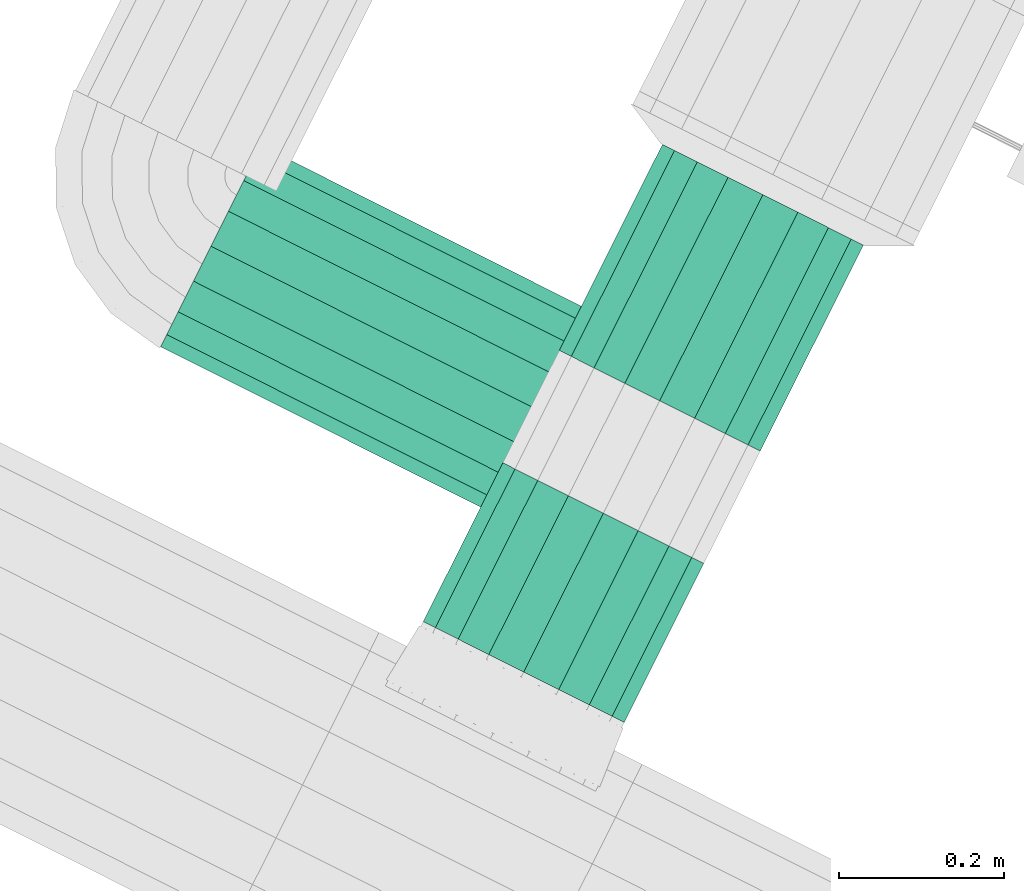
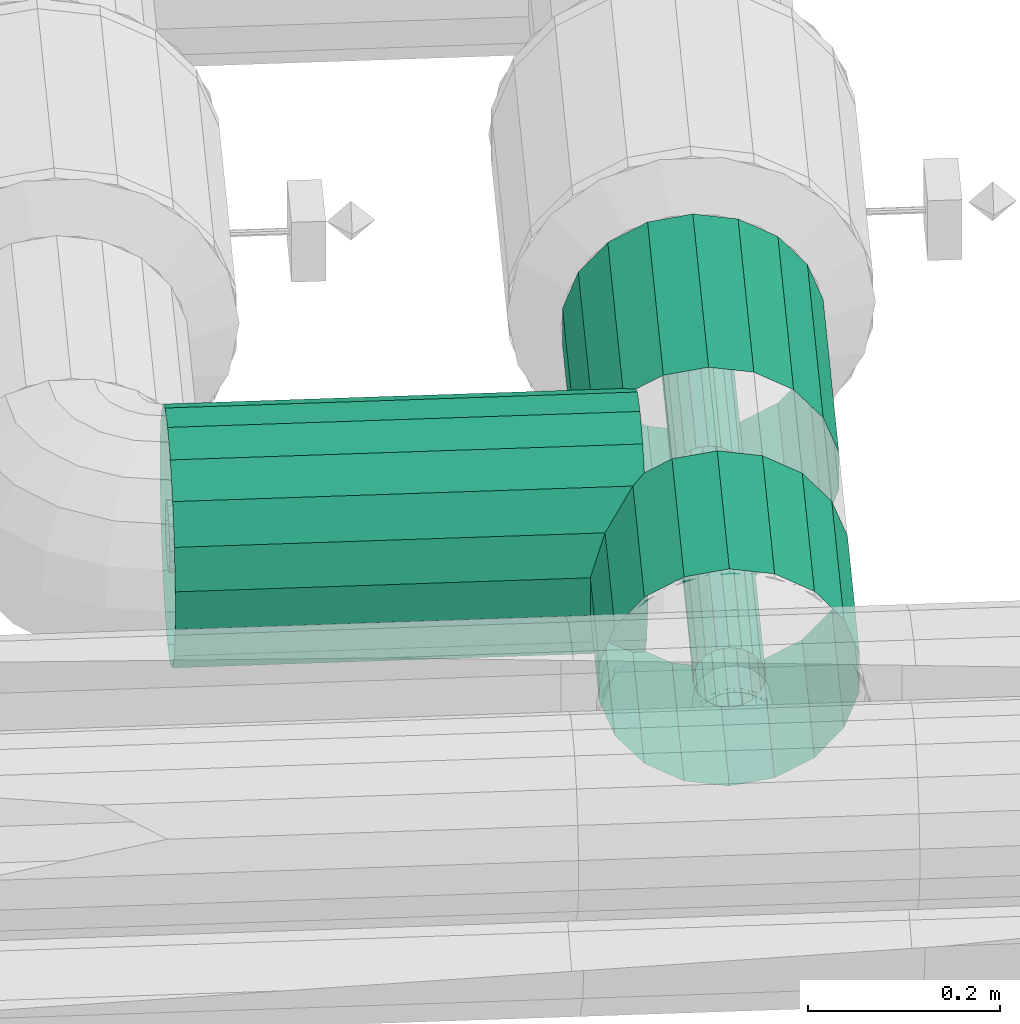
# One storey, part 38 of 152: 3 flow segments.
"""IFC2X3 building model written with IfcOpenShell, lengths in metres."""

from ifc_helpers import new_model, si_unit, derived_unit, direction, frame, origin, place, context, subcontext, project, spatial, face_set, surface_model, source, transform, mapped, material, type_object, type_shapes, element, save


model = new_model("IFC2X3")

# Units and contexts
model_context = context("Model", 3, precision=5.2338327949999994e-05, world=origin(), true_north=direction((0.0, 1.0)))
body_context = subcontext(model_context, "Body", "Model", "MODEL_VIEW")
ifc_project = project(units=[si_unit("LENGTHUNIT", "METRE"), si_unit("AREAUNIT", "SQUARE_METRE"), si_unit("VOLUMEUNIT", "CUBIC_METRE"), si_unit("MASSUNIT", "GRAM", prefix="KILO"), si_unit("PLANEANGLEUNIT", "RADIAN"), derived_unit("THERMALTRANSMITTANCEUNIT", [(si_unit("MASSUNIT", "GRAM", prefix="KILO"), 1), (si_unit("THERMODYNAMICTEMPERATUREUNIT", "KELVIN"), -1), (si_unit("TIMEUNIT", "SECOND"), -3)])], contexts=[model_context])

# Site, building, storey
site_placement = place(None, frame((0.0, 0.0, 0.0), z_axis=(0.0, 0.0, 1.0), x_axis=(0.8939966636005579, -0.4480736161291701, 0.0)))
site = spatial("IfcSite", under=ifc_project, at=site_placement, Name="Default", CompositionType="ELEMENT")
building_placement = place(site_placement, origin())
building = spatial("IfcBuilding", under=site, at=building_placement, CompositionType="ELEMENT")
storey_placement = place(building_placement, frame((0.0, 0.0, 2.7499999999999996)))
storey = spatial("IfcBuildingStorey", under=building, at=storey_placement, Name="1. Obergeschoss", CompositionType="ELEMENT", Elevation=2.7499999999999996)

# Flow segments
ifc_material = material(Name="IfcSurfaceStyle #1741")
distribution_element_type_1 = type_object("IfcDistributionElementType", Name="Stahlrohr nach DIN 2448 259989:Stahlrohr nach DIN 2448 259989", material=ifc_material)
shared_shape_1 = source(origin(), body_context, "Body", "SurfaceModel", [
    surface_model("IfcFaceBasedSurfaceModel", [(15.057242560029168, 6.744494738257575, 5.673690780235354), (15.044228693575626, 6.744494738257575, 5.671396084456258), (15.044228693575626, 6.465750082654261, 5.671396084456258), (15.057242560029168, 6.465750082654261, 5.673690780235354), (15.0327844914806, 6.744494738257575, 5.664788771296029), (15.0327844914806, 6.465750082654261, 5.664788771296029), (15.02429029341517, 6.744494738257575, 5.654665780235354), (15.02429029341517, 6.465750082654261, 5.654665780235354), (15.019770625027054, 6.744494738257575, 5.6422480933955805), (15.019770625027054, 6.465750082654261, 5.6422480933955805), (15.019770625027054, 6.744494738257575, 5.629033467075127), (15.019770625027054, 6.465750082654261, 5.629033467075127), (15.02429029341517, 6.744494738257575, 5.616615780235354), (15.02429029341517, 6.465750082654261, 5.616615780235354), (15.032784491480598, 6.744494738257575, 5.606492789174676), (15.032784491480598, 6.465750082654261, 5.606492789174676), (15.044228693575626, 6.744494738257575, 5.5998854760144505), (15.044228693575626, 6.465750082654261, 5.5998854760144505), (15.057242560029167, 6.744494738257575, 5.597590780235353), (15.057242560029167, 6.465750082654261, 5.597590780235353), (15.07025642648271, 6.744494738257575, 5.59988547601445), (15.07025642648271, 6.465750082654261, 5.59988547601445), (15.08170062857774, 6.744494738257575, 5.606492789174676), (15.08170062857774, 6.465750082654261, 5.606492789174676), (15.090194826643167, 6.744494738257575, 5.616615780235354), (15.090194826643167, 6.465750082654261, 5.616615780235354), (15.094714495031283, 6.744494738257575, 5.629033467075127), (15.094714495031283, 6.465750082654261, 5.629033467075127), (15.094714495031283, 6.744494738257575, 5.6422480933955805), (15.094714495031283, 6.465750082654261, 5.6422480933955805), (15.090194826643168, 6.744494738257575, 5.654665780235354), (15.090194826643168, 6.465750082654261, 5.654665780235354), (15.08170062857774, 6.744494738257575, 5.66478877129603), (15.08170062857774, 6.465750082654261, 5.66478877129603), (15.07025642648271, 6.744494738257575, 5.671396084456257), (15.07025642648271, 6.465750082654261, 5.671396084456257), (15.057242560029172, 6.744494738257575, 5.773690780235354), (15.010026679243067, 6.744494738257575, 5.765365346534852), (15.010026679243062, 6.465750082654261, 5.76536534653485), (15.057242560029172, 6.465750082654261, 5.773690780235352), (14.968505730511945, 6.744494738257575, 5.741393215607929), (14.968505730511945, 6.465750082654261, 5.741393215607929), (14.93768775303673, 6.744494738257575, 5.704665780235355), (14.93768775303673, 6.465750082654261, 5.704665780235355), (14.921289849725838, 6.744494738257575, 5.659612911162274), (14.921289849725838, 6.465750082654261, 5.659612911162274), (14.921289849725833, 6.744494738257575, 5.6116686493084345), (14.921289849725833, 6.465750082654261, 5.6116686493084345), (14.937687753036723, 6.744494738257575, 5.566615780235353), (14.937687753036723, 6.465750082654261, 5.566615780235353), (14.968505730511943, 6.744494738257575, 5.52988834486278), (14.968505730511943, 6.465750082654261, 5.52988834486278), (15.010026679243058, 6.744494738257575, 5.505916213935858), (15.010026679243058, 6.465750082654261, 5.505916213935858), (15.057242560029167, 6.744494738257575, 5.497590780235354), (15.057242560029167, 6.465750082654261, 5.497590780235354), (15.104458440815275, 6.744494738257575, 5.505916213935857), (15.104458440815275, 6.465750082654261, 5.505916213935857), (15.145979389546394, 6.744494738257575, 5.52988834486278), (15.145979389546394, 6.465750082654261, 5.52988834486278), (15.176797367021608, 6.744494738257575, 5.566615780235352), (15.176797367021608, 6.465750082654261, 5.566615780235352), (15.193195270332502, 6.744494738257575, 5.611668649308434), (15.193195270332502, 6.465750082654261, 5.611668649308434), (15.193195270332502, 6.744494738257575, 5.659612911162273), (15.193195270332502, 6.465750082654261, 5.659612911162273), (15.176797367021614, 6.744494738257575, 5.704665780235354), (15.176797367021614, 6.465750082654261, 5.704665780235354), (15.145979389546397, 6.744494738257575, 5.741393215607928), (15.145979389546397, 6.465750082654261, 5.741393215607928), (15.10445844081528, 6.744494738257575, 5.765365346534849), (15.10445844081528, 6.465750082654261, 5.765365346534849)], [face_set([[[0, 1, 2, 3]], [[1, 4, 5, 2]], [[4, 6, 7, 5]], [[6, 8, 9, 7]], [[8, 10, 11, 9]], [[10, 12, 13, 11]], [[12, 14, 15, 13]], [[14, 16, 17, 15]], [[16, 18, 19, 17]], [[18, 20, 21, 19]], [[20, 22, 23, 21]], [[22, 24, 25, 23]], [[24, 26, 27, 25]], [[26, 28, 29, 27]], [[28, 30, 31, 29]], [[30, 32, 33, 31]], [[32, 34, 35, 33]], [[34, 0, 3, 35]], [[36, 37, 38, 39]], [[37, 40, 41, 38]], [[40, 42, 43, 41]], [[42, 44, 45, 43]], [[44, 46, 47, 45]], [[46, 48, 49, 47]], [[48, 50, 51, 49]], [[50, 52, 53, 51]], [[52, 54, 55, 53]], [[54, 56, 57, 55]], [[56, 58, 59, 57]], [[58, 60, 61, 59]], [[60, 62, 63, 61]], [[62, 64, 65, 63]], [[64, 66, 67, 65]], [[66, 68, 69, 67]], [[68, 70, 71, 69]], [[70, 36, 39, 71]]])]),
])
type_shapes(distribution_element_type_1, [shared_shape_1])
flow_segment_1_placement = place(storey_placement, frame((0.0, 0.0, -2.7499999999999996)))
element("IfcFlowSegment", 1, at=flow_segment_1_placement, inside=storey, type_object=distribution_element_type_1, material=ifc_material, Name="Stahlrohr nach DIN 2448", ObjectType="Stahlrohr nach DIN 2448", context=body_context, shape_type="MappedRepresentation", body=[
    mapped(shared_shape_1, transform((0.0, 0.0, 0.0), scale=1.0)),
])
distribution_element_type_2 = type_object("IfcDistributionElementType", Name="Stahlrohr nach DIN 2448 260058:Stahlrohr nach DIN 2448 260058", material=ifc_material)
shared_shape_2 = source(origin(), body_context, "Body", "SurfaceModel", [
    surface_model("IfcFaceBasedSurfaceModel", [(14.98124256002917, 6.389750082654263, 5.597590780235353), (14.98124256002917, 6.376736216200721, 5.5998854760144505), (14.488269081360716, 6.376736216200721, 5.5998854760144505), (14.488269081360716, 6.389750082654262, 5.597590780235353), (14.98124256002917, 6.365292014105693, 5.606492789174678), (14.488269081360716, 6.36529201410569, 5.606492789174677), (14.98124256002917, 6.356797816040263, 5.616615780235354), (14.488269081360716, 6.356797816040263, 5.616615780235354), (14.98124256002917, 6.352278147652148, 5.629033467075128), (14.488269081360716, 6.352278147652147, 5.629033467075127), (14.98124256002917, 6.3522781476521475, 5.6422480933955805), (14.488269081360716, 6.352278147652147, 5.6422480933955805), (14.98124256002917, 6.356797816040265, 5.654665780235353), (14.488269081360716, 6.356797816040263, 5.654665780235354), (14.98124256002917, 6.365292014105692, 5.66478877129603), (14.488269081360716, 6.365292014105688, 5.66478877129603), (14.98124256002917, 6.376736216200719, 5.671396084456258), (14.488269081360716, 6.376736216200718, 5.671396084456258), (14.98124256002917, 6.389750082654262, 5.673690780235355), (14.488269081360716, 6.38975008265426, 5.673690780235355), (14.98124256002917, 6.402763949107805, 5.671396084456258), (14.488269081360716, 6.402763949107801, 5.671396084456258), (14.98124256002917, 6.414208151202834, 5.664788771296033), (14.488269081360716, 6.414208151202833, 5.664788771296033), (14.98124256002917, 6.42270234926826, 5.654665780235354), (14.488269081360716, 6.422702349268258, 5.654665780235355), (14.98124256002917, 6.427222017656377, 5.6422480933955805), (14.488269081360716, 6.427222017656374, 5.642248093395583), (14.98124256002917, 6.42722201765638, 5.6290334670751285), (14.488269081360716, 6.427222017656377, 5.6290334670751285), (14.98124256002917, 6.422702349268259, 5.616615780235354), (14.488269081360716, 6.422702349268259, 5.616615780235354), (14.98124256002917, 6.414208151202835, 5.606492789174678), (14.488269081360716, 6.414208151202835, 5.606492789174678), (14.98124256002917, 6.402763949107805, 5.599885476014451), (14.488269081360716, 6.402763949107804, 5.599885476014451), (14.98124256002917, 6.389750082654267, 5.497590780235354), (14.98124256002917, 6.34253420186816, 5.505916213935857), (14.488269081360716, 6.3425342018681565, 5.505916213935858), (14.488269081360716, 6.389750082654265, 5.497590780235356), (14.98124256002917, 6.301013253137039, 5.529888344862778), (14.488269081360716, 6.301013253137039, 5.529888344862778), (14.98124256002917, 6.2701952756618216, 5.566615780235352), (14.488269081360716, 6.2701952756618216, 5.566615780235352), (14.98124256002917, 6.253797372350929, 5.611668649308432), (14.488269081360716, 6.253797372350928, 5.611668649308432), (14.98124256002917, 6.253797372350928, 5.659612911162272), (14.488269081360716, 6.2537973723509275, 5.659612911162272), (14.98124256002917, 6.270195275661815, 5.704665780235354), (14.488269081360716, 6.270195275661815, 5.704665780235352), (14.98124256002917, 6.301013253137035, 5.741393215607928), (14.488269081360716, 6.3010132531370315, 5.741393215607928), (14.98124256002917, 6.342534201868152, 5.765365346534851), (14.488269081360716, 6.342534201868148, 5.76536534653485), (14.98124256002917, 6.38975008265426, 5.773690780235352), (14.488269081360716, 6.389750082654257, 5.773690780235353), (14.98124256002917, 6.436965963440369, 5.76536534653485), (14.488269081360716, 6.4369659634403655, 5.765365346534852), (14.98124256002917, 6.478486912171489, 5.741393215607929), (14.488269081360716, 6.478486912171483, 5.741393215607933), (14.98124256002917, 6.509304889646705, 5.704665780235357), (14.488269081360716, 6.5093048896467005, 5.704665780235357), (14.98124256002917, 6.5257027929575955, 5.6596129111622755), (14.488269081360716, 6.525702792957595, 5.659612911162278), (14.98124256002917, 6.525702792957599, 5.611668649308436), (14.488269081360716, 6.525702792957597, 5.611668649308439), (14.98124256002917, 6.509304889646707, 5.566615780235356), (14.488269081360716, 6.509304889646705, 5.566615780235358), (14.98124256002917, 6.478486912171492, 5.52988834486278), (14.488269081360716, 6.478486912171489, 5.529888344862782), (14.98124256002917, 6.4369659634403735, 5.50591621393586), (14.488269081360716, 6.436965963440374, 5.505916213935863)], [face_set([[[0, 1, 2, 3]], [[1, 4, 5, 2]], [[4, 6, 7, 5]], [[6, 8, 9, 7]], [[8, 10, 11, 9]], [[10, 12, 13, 11]], [[12, 14, 15, 13]], [[14, 16, 17, 15]], [[16, 18, 19, 17]], [[18, 20, 21, 19]], [[20, 22, 23, 21]], [[22, 24, 25, 23]], [[24, 26, 27, 25]], [[26, 28, 29, 27]], [[28, 30, 31, 29]], [[30, 32, 33, 31]], [[32, 34, 35, 33]], [[34, 0, 3, 35]], [[36, 37, 38, 39]], [[37, 40, 41, 38]], [[40, 42, 43, 41]], [[42, 44, 45, 43]], [[44, 46, 47, 45]], [[46, 48, 49, 47]], [[48, 50, 51, 49]], [[50, 52, 53, 51]], [[52, 54, 55, 53]], [[54, 56, 57, 55]], [[56, 58, 59, 57]], [[58, 60, 61, 59]], [[60, 62, 63, 61]], [[62, 64, 65, 63]], [[64, 66, 67, 65]], [[66, 68, 69, 67]], [[68, 70, 71, 69]], [[70, 36, 39, 71]]])]),
])
type_shapes(distribution_element_type_2, [shared_shape_2])
flow_segment_2_placement = place(storey_placement, frame((0.0, 0.0, -2.7499999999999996)))
element("IfcFlowSegment", 2, at=flow_segment_2_placement, inside=storey, type_object=distribution_element_type_2, material=ifc_material, Name="Stahlrohr nach DIN 2448", ObjectType="Stahlrohr nach DIN 2448", context=body_context, shape_type="MappedRepresentation", body=[
    mapped(shared_shape_2, transform((0.0, 0.0, 0.0), scale=1.0)),
])
distribution_element_type_3 = type_object("IfcDistributionElementType", Name="Stahlrohr nach DIN 2448 262423:Stahlrohr nach DIN 2448 262423", material=ifc_material)
shared_shape_3 = source(origin(), body_context, "Body", "SurfaceModel", [
    surface_model("IfcFaceBasedSurfaceModel", [(15.057242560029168, 6.313750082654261, 5.673690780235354), (15.044228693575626, 6.313750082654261, 5.671396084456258), (15.044228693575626, 6.098787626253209, 5.671396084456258), (15.057242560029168, 6.098787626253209, 5.673690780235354), (15.0327844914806, 6.313750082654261, 5.6647887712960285), (15.032784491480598, 6.098787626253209, 5.664788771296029), (15.02429029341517, 6.313750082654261, 5.654665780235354), (15.02429029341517, 6.098787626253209, 5.654665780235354), (15.019770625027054, 6.313750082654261, 5.6422480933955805), (15.019770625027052, 6.098787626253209, 5.6422480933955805), (15.019770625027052, 6.313750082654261, 5.629033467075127), (15.01977062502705, 6.098787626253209, 5.629033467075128), (15.024290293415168, 6.313750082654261, 5.616615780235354), (15.024290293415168, 6.098787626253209, 5.616615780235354), (15.032784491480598, 6.313750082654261, 5.606492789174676), (15.032784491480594, 6.098787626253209, 5.606492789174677), (15.044228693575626, 6.313750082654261, 5.5998854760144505), (15.044228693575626, 6.098787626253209, 5.5998854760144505), (15.057242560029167, 6.313750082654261, 5.597590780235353), (15.057242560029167, 6.098787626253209, 5.597590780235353), (15.07025642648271, 6.313750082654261, 5.59988547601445), (15.07025642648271, 6.098787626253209, 5.59988547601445), (15.08170062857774, 6.313750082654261, 5.606492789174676), (15.08170062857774, 6.098787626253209, 5.606492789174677), (15.090194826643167, 6.313750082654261, 5.616615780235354), (15.090194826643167, 6.098787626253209, 5.616615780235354), (15.094714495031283, 6.313750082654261, 5.629033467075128), (15.094714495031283, 6.098787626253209, 5.629033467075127), (15.094714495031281, 6.313750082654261, 5.6422480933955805), (15.09471449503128, 6.098787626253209, 5.6422480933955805), (15.090194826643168, 6.313750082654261, 5.654665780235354), (15.090194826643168, 6.098787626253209, 5.654665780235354), (15.08170062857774, 6.313750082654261, 5.66478877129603), (15.08170062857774, 6.098787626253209, 5.66478877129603), (15.07025642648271, 6.313750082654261, 5.671396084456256), (15.07025642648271, 6.098787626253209, 5.671396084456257), (15.057242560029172, 6.313750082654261, 5.773690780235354), (15.010026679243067, 6.313750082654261, 5.765365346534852), (15.010026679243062, 6.098787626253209, 5.76536534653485), (15.057242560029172, 6.098787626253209, 5.773690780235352), (14.968505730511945, 6.313750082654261, 5.741393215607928), (14.968505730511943, 6.098787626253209, 5.741393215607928), (14.93768775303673, 6.313750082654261, 5.704665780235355), (14.93768775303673, 6.098787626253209, 5.704665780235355), (14.921289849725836, 6.313750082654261, 5.659612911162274), (14.921289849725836, 6.098787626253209, 5.659612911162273), (14.921289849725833, 6.313750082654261, 5.6116686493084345), (14.92128984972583, 6.098787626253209, 5.6116686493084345), (14.937687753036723, 6.313750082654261, 5.566615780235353), (14.937687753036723, 6.098787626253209, 5.566615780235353), (14.968505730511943, 6.313750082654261, 5.529888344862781), (14.968505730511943, 6.098787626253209, 5.529888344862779), (15.010026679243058, 6.313750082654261, 5.5059162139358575), (15.010026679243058, 6.098787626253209, 5.505916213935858), (15.057242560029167, 6.313750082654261, 5.497590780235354), (15.057242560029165, 6.098787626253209, 5.497590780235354), (15.104458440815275, 6.313750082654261, 5.5059162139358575), (15.104458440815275, 6.098787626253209, 5.5059162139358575), (15.145979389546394, 6.313750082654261, 5.52988834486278), (15.145979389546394, 6.098787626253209, 5.52988834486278), (15.176797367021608, 6.313750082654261, 5.566615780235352), (15.176797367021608, 6.098787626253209, 5.566615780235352), (15.1931952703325, 6.313750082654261, 5.611668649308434), (15.1931952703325, 6.098787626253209, 5.611668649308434), (15.1931952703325, 6.313750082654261, 5.659612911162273), (15.193195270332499, 6.098787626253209, 5.659612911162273), (15.176797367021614, 6.313750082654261, 5.704665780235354), (15.176797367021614, 6.098787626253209, 5.704665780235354), (15.145979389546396, 6.313750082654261, 5.7413932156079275), (15.145979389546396, 6.098787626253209, 5.741393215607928), (15.10445844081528, 6.313750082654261, 5.765365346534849), (15.10445844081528, 6.098787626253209, 5.76536534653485)], [face_set([[[0, 1, 2, 3]], [[1, 4, 5, 2]], [[4, 6, 7, 5]], [[6, 8, 9, 7]], [[8, 10, 11, 9]], [[10, 12, 13, 11]], [[12, 14, 15, 13]], [[14, 16, 17, 15]], [[16, 18, 19, 17]], [[18, 20, 21, 19]], [[20, 22, 23, 21]], [[22, 24, 25, 23]], [[24, 26, 27, 25]], [[26, 28, 29, 27]], [[28, 30, 31, 29]], [[30, 32, 33, 31]], [[32, 34, 35, 33]], [[34, 0, 3, 35]], [[36, 37, 38, 39]], [[37, 40, 41, 38]], [[40, 42, 43, 41]], [[42, 44, 45, 43]], [[44, 46, 47, 45]], [[46, 48, 49, 47]], [[48, 50, 51, 49]], [[50, 52, 53, 51]], [[52, 54, 55, 53]], [[54, 56, 57, 55]], [[56, 58, 59, 57]], [[58, 60, 61, 59]], [[60, 62, 63, 61]], [[62, 64, 65, 63]], [[64, 66, 67, 65]], [[66, 68, 69, 67]], [[68, 70, 71, 69]], [[70, 36, 39, 71]]])]),
])
type_shapes(distribution_element_type_3, [shared_shape_3])
flow_segment_3_placement = place(storey_placement, frame((0.0, 0.0, -2.7499999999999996)))
element("IfcFlowSegment", 3, at=flow_segment_3_placement, inside=storey, type_object=distribution_element_type_3, material=ifc_material, Name="Stahlrohr nach DIN 2448", ObjectType="Stahlrohr nach DIN 2448", context=body_context, shape_type="MappedRepresentation", body=[
    mapped(shared_shape_3, transform((0.0, 0.0, 0.0), scale=1.0)),
])

save(model, "model.ifc")
